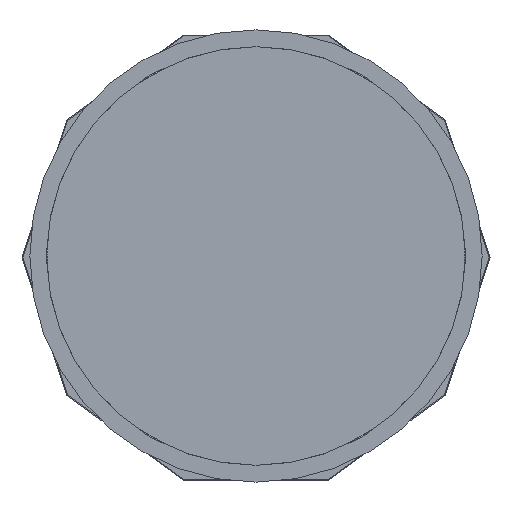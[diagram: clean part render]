
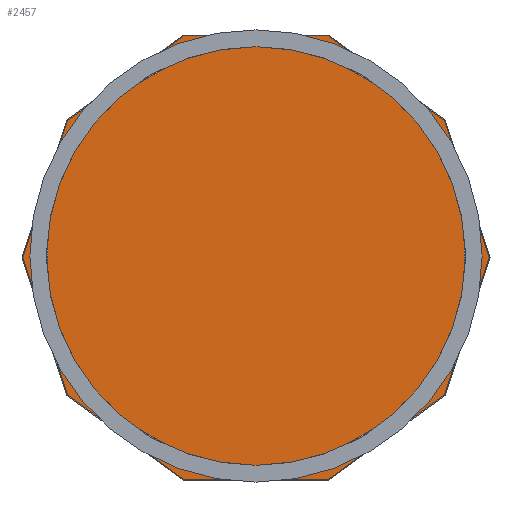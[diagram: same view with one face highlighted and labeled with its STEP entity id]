
A CAD part, front view. The second image highlights one B-rep face of the part: STEP entity #2457.
In plain terms, the highlighted planar face has unit normal (0, -1, 0).
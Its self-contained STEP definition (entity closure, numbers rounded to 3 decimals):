
#2011=DIRECTION('',(0.809,0.,0.588));
#2012=VECTOR('',#2011,342.465);
#2013=CARTESIAN_POINT('',(171.233,52.,-531.));
#2014=LINE('',#2013,#2012);
#2019=DIRECTION('',(0.309,0.,-0.951));
#2020=VECTOR('',#2019,342.465);
#2021=CARTESIAN_POINT('',(-554.121,52.,-4.));
#2022=LINE('',#2021,#2020);
#2027=DIRECTION('',(0.809,0.,-0.588));
#2028=VECTOR('',#2027,342.465);
#2029=CARTESIAN_POINT('',(-448.293,52.,-329.704));
#2030=LINE('',#2029,#2028);
#2035=DIRECTION('',(1.,0.,0.));
#2036=VECTOR('',#2035,342.465);
#2037=CARTESIAN_POINT('',(-171.233,52.,-531.));
#2038=LINE('',#2037,#2036);
#2269=DIRECTION('',(0.309,0.,0.951));
#2270=VECTOR('',#2269,342.465);
#2271=CARTESIAN_POINT('',(448.293,52.,-329.704));
#2272=LINE('',#2271,#2270);
#2277=DIRECTION('',(-0.309,0.,0.951));
#2278=VECTOR('',#2277,342.465);
#2279=CARTESIAN_POINT('',(554.121,52.,-4.));
#2280=LINE('',#2279,#2278);
#2285=DIRECTION('',(-0.809,0.,0.588));
#2286=VECTOR('',#2285,342.465);
#2287=CARTESIAN_POINT('',(448.293,52.,321.704));
#2288=LINE('',#2287,#2286);
#2293=DIRECTION('',(-1.,0.,0.));
#2294=VECTOR('',#2293,342.465);
#2295=CARTESIAN_POINT('',(171.233,52.,523.));
#2296=LINE('',#2295,#2294);
#2301=DIRECTION('',(-0.809,0.,-0.588));
#2302=VECTOR('',#2301,342.465);
#2303=CARTESIAN_POINT('',(-171.233,52.,523.));
#2304=LINE('',#2303,#2302);
#2309=DIRECTION('',(-0.309,0.,-0.951));
#2310=VECTOR('',#2309,342.465);
#2311=CARTESIAN_POINT('',(-448.293,52.,321.704));
#2312=LINE('',#2311,#2310);
#2377=CARTESIAN_POINT('',(-554.121,52.,-4.));
#2378=CARTESIAN_POINT('',(-448.293,52.,-329.704));
#2379=VERTEX_POINT('',#2377);
#2380=VERTEX_POINT('',#2378);
#2381=CARTESIAN_POINT('',(-171.233,52.,-531.));
#2382=VERTEX_POINT('',#2381);
#2383=CARTESIAN_POINT('',(171.233,52.,-531.));
#2384=VERTEX_POINT('',#2383);
#2385=CARTESIAN_POINT('',(448.293,52.,-329.704));
#2386=VERTEX_POINT('',#2385);
#2387=CARTESIAN_POINT('',(554.121,52.,-4.));
#2388=VERTEX_POINT('',#2387);
#2389=CARTESIAN_POINT('',(448.293,52.,321.704));
#2390=VERTEX_POINT('',#2389);
#2391=CARTESIAN_POINT('',(171.233,52.,523.));
#2392=VERTEX_POINT('',#2391);
#2393=CARTESIAN_POINT('',(-171.233,52.,523.));
#2394=VERTEX_POINT('',#2393);
#2395=CARTESIAN_POINT('',(-448.293,52.,321.704));
#2396=VERTEX_POINT('',#2395);
#2431=CARTESIAN_POINT('',(0.,52.,0.));
#2432=DIRECTION('',(0.,1.,0.));
#2433=DIRECTION('',(1.,0.,0.));
#2434=AXIS2_PLACEMENT_3D('',#2431,#2432,#2433);
#2435=PLANE('',#2434);
#2437=ORIENTED_EDGE('',*,*,#2436,.F.);
#2439=ORIENTED_EDGE('',*,*,#2438,.F.);
#2441=ORIENTED_EDGE('',*,*,#2440,.F.);
#2443=ORIENTED_EDGE('',*,*,#2442,.F.);
#2445=ORIENTED_EDGE('',*,*,#2444,.F.);
#2447=ORIENTED_EDGE('',*,*,#2446,.F.);
#2449=ORIENTED_EDGE('',*,*,#2448,.F.);
#2450=ORIENTED_EDGE('',*,*,#2420,.F.);
#2452=ORIENTED_EDGE('',*,*,#2451,.F.);
#2454=ORIENTED_EDGE('',*,*,#2453,.F.);
#2455=EDGE_LOOP('',(#2437,#2439,#2441,#2443,#2445,#2447,#2449,#2450,#2452,
#2454));
#2456=FACE_OUTER_BOUND('',#2455,.F.);
#2420=EDGE_CURVE('',#2384,#2386,#2014,.T.);
#2436=EDGE_CURVE('',#2379,#2380,#2022,.T.);
#2438=EDGE_CURVE('',#2396,#2379,#2312,.T.);
#2440=EDGE_CURVE('',#2394,#2396,#2304,.T.);
#2442=EDGE_CURVE('',#2392,#2394,#2296,.T.);
#2444=EDGE_CURVE('',#2390,#2392,#2288,.T.);
#2446=EDGE_CURVE('',#2388,#2390,#2280,.T.);
#2448=EDGE_CURVE('',#2386,#2388,#2272,.T.);
#2451=EDGE_CURVE('',#2382,#2384,#2038,.T.);
#2453=EDGE_CURVE('',#2380,#2382,#2030,.T.);
#2457=ADVANCED_FACE('',(#2456),#2435,.F.);
